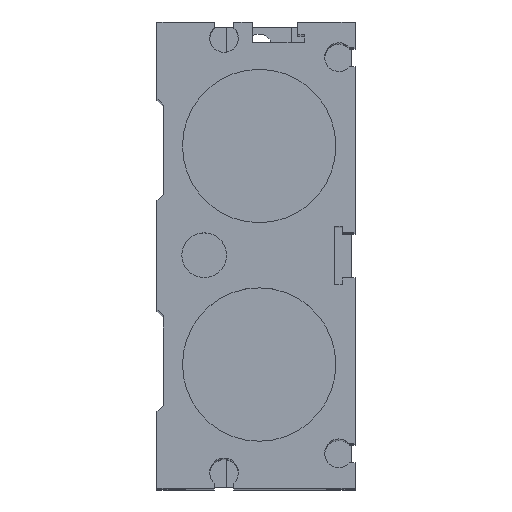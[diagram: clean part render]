
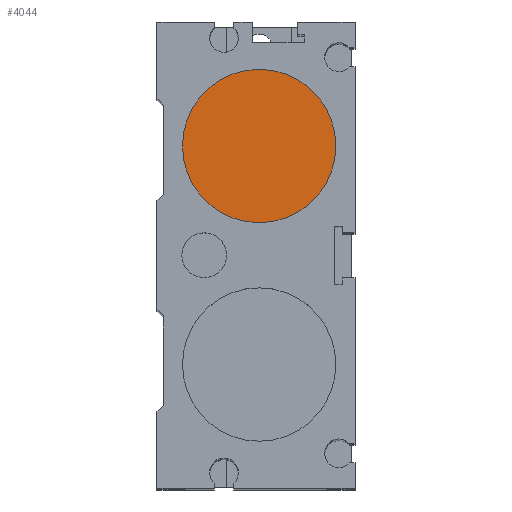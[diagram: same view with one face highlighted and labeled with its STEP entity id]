
A CAD part, top view. The second image highlights one B-rep face of the part: STEP entity #4044.
In plain terms, the highlighted planar face has unit normal (0, 0, 1).
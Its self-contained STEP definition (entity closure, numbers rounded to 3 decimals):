
#4021=CARTESIAN_POINT('',(12.,17.1,231.));
#4022=VERTEX_POINT('',#4021);
#4023=CARTESIAN_POINT('',(0.,17.1,231.));
#4024=DIRECTION('',(0.0,0.0,1.0));
#4025=DIRECTION('',(-1.0,0.0,0.0));
#4026=AXIS2_PLACEMENT_3D('',#4023,#4024,#4025);
#4027=CIRCLE('',#4026,12.);
#4028=EDGE_CURVE('',#4022,#4022,#4027,.T.);
#4036=CARTESIAN_POINT('',(0.,17.1,231.));
#4037=DIRECTION('',(0.0,0.0,-1.0));
#4038=DIRECTION('',(-1.0,0.0,0.0));
#4039=AXIS2_PLACEMENT_3D('',#4036,#4037,#4038);
#4040=PLANE('',#4039);
#4041=ORIENTED_EDGE('',*,*,#4028,.T.);
#4042=EDGE_LOOP('',(#4041));
#4043=FACE_OUTER_BOUND('',#4042,.T.);
#4044=ADVANCED_FACE('',(#4043),#4040,.F.);
